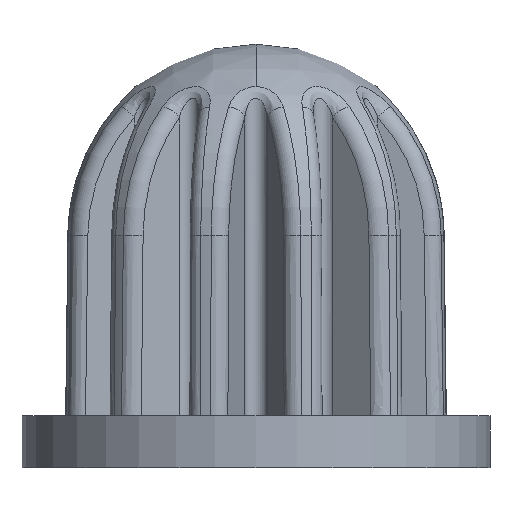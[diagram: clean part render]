
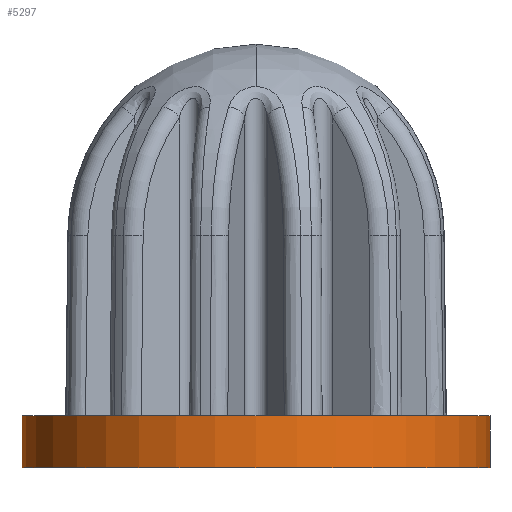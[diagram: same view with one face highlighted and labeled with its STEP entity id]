
A CAD part, front view. The second image highlights one B-rep face of the part: STEP entity #5297.
In plain terms, the highlighted cylindrical face has radius 4 mm (diameter 8.001 mm), a partial arc.
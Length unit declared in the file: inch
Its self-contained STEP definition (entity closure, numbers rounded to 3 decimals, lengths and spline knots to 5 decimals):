
#155 = CARTESIAN_POINT ( 'NONE',  ( 0.1575, 0., 0. ) ) ;
#816 = FACE_OUTER_BOUND ( 'NONE', #10779, .T. ) ;
#820 = AXIS2_PLACEMENT_3D ( 'NONE', #6489, #15928, #10353 ) ;
#1002 = CYLINDRICAL_SURFACE ( 'NONE', #820, 0.1575 ) ;
#1048 = ORIENTED_EDGE ( 'NONE', *, *, #3107, .T. ) ;
#1229 = ORIENTED_EDGE ( 'NONE', *, *, #13169, .T. ) ;
#1578 = CARTESIAN_POINT ( 'NONE',  ( 0.1575, 0., -0.035 ) ) ;
#1829 = AXIS2_PLACEMENT_3D ( 'NONE', #3691, #6383, #7564 ) ;
#3107 = EDGE_CURVE ( 'NONE', #7937, #9401, #15319, .T. ) ;
#3691 = CARTESIAN_POINT ( 'NONE',  ( 0., 0., 0. ) ) ;
#4660 = ORIENTED_EDGE ( 'NONE', *, *, #7101, .F. ) ;
#5091 = DIRECTION ( 'NONE',  ( 0., 0., -1. ) ) ;
#5263 = CARTESIAN_POINT ( 'NONE',  ( -0.1575, 0., -0.035 ) ) ;
#5297 = ADVANCED_FACE ( 'NONE', ( #816 ), #1002, .T. ) ;
#6383 = DIRECTION ( 'NONE',  ( 0., 0., -1. ) ) ;
#6489 = CARTESIAN_POINT ( 'NONE',  ( 0., 0., -0.035 ) ) ;
#6689 = AXIS2_PLACEMENT_3D ( 'NONE', #17372, #5091, #16043 ) ;
#7101 = EDGE_CURVE ( 'NONE', #13422, #8404, #14443, .T. ) ;
#7564 = DIRECTION ( 'NONE',  ( -1., 0., 0. ) ) ;
#7934 = CARTESIAN_POINT ( 'NONE',  ( -0.1575, 0., 0. ) ) ;
#7937 = VERTEX_POINT ( 'NONE', #155 ) ;
#8238 = DIRECTION ( 'NONE',  ( 0., 0., 1. ) ) ;
#8404 = VERTEX_POINT ( 'NONE', #10368 ) ;
#9401 = VERTEX_POINT ( 'NONE', #7934 ) ;
#9457 = LINE ( 'NONE', #5263, #17376 ) ;
#10353 = DIRECTION ( 'NONE',  ( 1., 0., 0. ) ) ;
#10368 = CARTESIAN_POINT ( 'NONE',  ( -0.1575, 0., -0.035 ) ) ;
#10779 = EDGE_LOOP ( 'NONE', ( #13491, #4660, #1229, #1048 ) ) ;
#11480 = VECTOR ( 'NONE', #8238, 39.37008 ) ;
#12463 = LINE ( 'NONE', #15081, #11480 ) ;
#13169 = EDGE_CURVE ( 'NONE', #13422, #7937, #12463, .T. ) ;
#13342 = DIRECTION ( 'NONE',  ( 0., 0., 1. ) ) ;
#13422 = VERTEX_POINT ( 'NONE', #1578 ) ;
#13491 = ORIENTED_EDGE ( 'NONE', *, *, #14425, .F. ) ;
#14425 = EDGE_CURVE ( 'NONE', #8404, #9401, #9457, .T. ) ;
#14443 = CIRCLE ( 'NONE', #6689, 0.1575 ) ;
#15081 = CARTESIAN_POINT ( 'NONE',  ( 0.1575, 0., -0.035 ) ) ;
#15319 = CIRCLE ( 'NONE', #1829, 0.1575 ) ;
#15928 = DIRECTION ( 'NONE',  ( 0., 0., 1. ) ) ;
#16043 = DIRECTION ( 'NONE',  ( -1., 0., 0. ) ) ;
#17372 = CARTESIAN_POINT ( 'NONE',  ( 0., 0., -0.035 ) ) ;
#17376 = VECTOR ( 'NONE', #13342, 39.37008 ) ;
